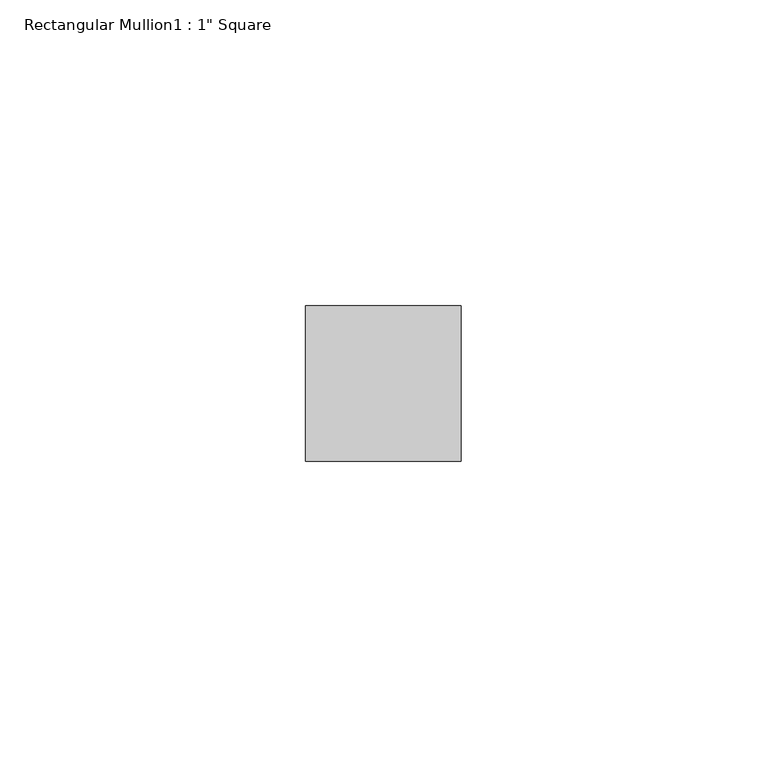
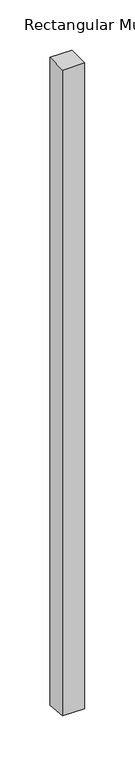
"""IFC4 building model written with IfcOpenShell, lengths in millimetres: member geometry."""

import ifcopenshell
import ifcopenshell.guid

model = None  # the IFC model being written
_history = None  # IfcOwnerHistory: only IFC2X3 demands one
_inside = {}  # id of a spatial element -> (the spatial element, [elements in it])
_under = {}  # id of a project, library or spatial element -> (it, [spatial elements below it])
_declared = {}  # id of a project -> (the project, [libraries it declares])
_typed = {}  # id of a type object -> (the type object, [elements of that type])
_made_of = {}  # id of a material, layer set ... -> (it, [elements and type objects made of it])


def new_model(schema):
    """Start an empty IFC model of exactly this schema.

    Asked for "IFC4X3", IfcOpenShell would pick the latest addendum, in which some entities
    have other attributes; the version numbers below select the first issue.
    IFC2X3 requires an IfcOwnerHistory on every rooted entity: one is made here for all.
    """
    global model, _history
    if schema == "IFC4X3":
        model = ifcopenshell.file(schema_version=(4, 3, 0, 0))
    else:
        model = ifcopenshell.file(schema=schema)
    _inside.clear()
    _under.clear()
    _declared.clear()
    _typed.clear()
    _made_of.clear()
    _history = None
    if model.schema == "IFC2X3":
        org = make("IfcOrganization", Name="unknown")
        user = make(
            "IfcPersonAndOrganization",
            ThePerson=make("IfcPerson", FamilyName="unknown"),
            TheOrganization=org,
        )
        app = make(
            "IfcApplication",
            ApplicationDeveloper=org,
            Version="unknown",
            ApplicationFullName="unknown",
            ApplicationIdentifier="unknown",
        )
        _history = make(
            "IfcOwnerHistory",
            OwningUser=user,
            OwningApplication=app,
            ChangeAction="ADDED",
            CreationDate=0,
        )
    return model


def make(cls, **values):
    """One entity of the class cls with the attributes given. An attribute that is None is left unset."""
    return model.create_entity(
        cls, **{name: value for name, value in values.items() if value is not None}
    )


def rooted(cls, **values):
    """An entity with a GlobalId (a new one), such as an element, a storey or a relation."""
    return make(cls, GlobalId=ifcopenshell.guid.new(), OwnerHistory=_history, **values)


def si_unit(unit_type, name, prefix=None):
    """IfcSIUnit, for example si_unit("LENGTHUNIT", "METRE", prefix="MILLI")."""
    return make("IfcSIUnit", UnitType=unit_type, Prefix=prefix, Name=name)


def assignment(units):
    """IfcUnitAssignment: the units of a project."""
    return None if units is None else make("IfcUnitAssignment", Units=units)


def point(xyz):
    """IfcCartesianPoint."""
    return None if xyz is None else make("IfcCartesianPoint", Coordinates=xyz)


def direction(xyz):
    """IfcDirection."""
    return None if xyz is None else make("IfcDirection", DirectionRatios=xyz)


def frame(location, z_axis=None, x_axis=None):
    """IfcAxis2Placement3D, a coordinate frame: its origin and axes. An axis left out is left unset."""
    return make(
        "IfcAxis2Placement3D",
        Location=point(location),
        Axis=direction(z_axis),
        RefDirection=direction(x_axis),
    )


def origin():
    """The frame at (0, 0, 0) with its axes left unset."""
    return frame((0.0, 0.0, 0.0))


def place(relative_to, where):
    """IfcLocalPlacement: puts the frame where relative to a parent placement (None: the world)."""
    return make(
        "IfcLocalPlacement", PlacementRelTo=relative_to, RelativePlacement=where
    )


def context(
    kind, dimensions, precision=None, world=None, true_north=None, identifier=None
):
    """IfcGeometricRepresentationContext, for example the 3D "Model" context."""
    return make(
        "IfcGeometricRepresentationContext",
        ContextIdentifier=identifier,
        ContextType=kind,
        CoordinateSpaceDimension=dimensions,
        Precision=precision,
        WorldCoordinateSystem=world,
        TrueNorth=true_north,
    )


def project(units=None, contexts=None):
    """IfcProject with its units and contexts."""
    return rooted(
        "IfcProject",
        Name="project",
        RepresentationContexts=contexts,
        UnitsInContext=assignment(units),
    )


def spatial(cls, under=None, at=None, **own):
    """A site, building, storey or space (cls), placed at a placement, below another one or the project."""
    s = rooted(cls, ObjectPlacement=at, **own)
    if under is not None:
        _under.setdefault(under.id(), (under, []))[1].append(s)
    return s


def polyline(points):
    """IfcPolyline through the points."""
    return make("IfcPolyline", Points=[point(p) for p in points])


def outline(outer, holes=None, kind="AREA"):
    """IfcArbitraryClosedProfileDef: a profile drawn as a closed curve; with holes, ...WithVoids."""
    if holes is None:
        return make("IfcArbitraryClosedProfileDef", ProfileType=kind, OuterCurve=outer)
    return make(
        "IfcArbitraryProfileDefWithVoids",
        ProfileType=kind,
        OuterCurve=outer,
        InnerCurves=holes,
    )


def extrude(swept, where, along, depth):
    """IfcExtrudedAreaSolid: the profile swept, set in the frame where, extruded along a direction by depth."""
    return make(
        "IfcExtrudedAreaSolid",
        SweptArea=swept,
        Position=where,
        ExtrudedDirection=direction(along),
        Depth=depth,
    )


def shape(context_of_items, identifier, shape_type, items):
    """IfcShapeRepresentation: the items that make up one representation, for example the "Body"."""
    return make(
        "IfcShapeRepresentation",
        ContextOfItems=context_of_items,
        RepresentationIdentifier=identifier,
        RepresentationType=shape_type,
        Items=items,
    )


def source(mapping_origin, context_of_items, identifier, shape_type, items):
    """IfcRepresentationMap: a shape defined once, which mapped items show again and again."""
    return make(
        "IfcRepresentationMap",
        MappingOrigin=mapping_origin,
        MappedRepresentation=shape(context_of_items, identifier, shape_type, items),
    )


def transform(
    local_origin,
    x_axis=None,
    y_axis=None,
    z_axis=None,
    scale=None,
    scale2=None,
    scale3=None,
    uniform=True,
):
    """IfcCartesianTransformationOperator3D, or its non-uniform kind. x_axis, y_axis, z_axis: its Axis1, 2, 3."""
    if uniform:
        return make(
            "IfcCartesianTransformationOperator3D",
            Axis1=direction(x_axis),
            Axis2=direction(y_axis),
            LocalOrigin=point(local_origin),
            Scale=scale,
            Axis3=direction(z_axis),
        )
    return make(
        "IfcCartesianTransformationOperator3DnonUniform",
        Axis1=direction(x_axis),
        Axis2=direction(y_axis),
        LocalOrigin=point(local_origin),
        Scale=scale,
        Axis3=direction(z_axis),
        Scale2=scale2,
        Scale3=scale3,
    )


def mapped(mapping_source, mapping_target):
    """IfcMappedItem: shows the shape of a source again, moved by a transform."""
    return make(
        "IfcMappedItem", MappingSource=mapping_source, MappingTarget=mapping_target
    )


def made_of(thing, what):
    """Note that an element or type object is made of a material, layer set ...; save() writes the relation."""
    if what is not None:
        _made_of.setdefault(what.id(), (what, []))[1].append(thing)
    return thing


def element(
    cls,
    number,
    at=None,
    inside=None,
    cuts=None,
    type_object=None,
    material=None,
    context=None,
    identifier="Body",
    shape_type=None,
    held_by="IfcProductDefinitionShape",
    body=None,
    shapes=None,
    **own,
):
    """One element of the class cls, such as IfcWall. Its Tag is "e" and its number.

    at: its placement. inside: the storey or other place that contains it. cuts: it is an
    opening in that element (IfcRelVoidsElement). A single representation is given by context,
    identifier, shape_type and body (its items); several are given by shapes. held_by: the class
    of the entity that holds the representations. save() writes the other relations.
    """
    e = rooted(cls, Tag="e%d" % number, ObjectPlacement=at, **own)
    if body is not None:
        shapes = [shape(context, identifier, shape_type, body)]
    if shapes is not None:
        e.Representation = make(held_by, Representations=shapes)
    if inside is not None:
        _inside.setdefault(inside.id(), (inside, []))[1].append(e)
    if cuts is not None:
        rooted(
            "IfcRelVoidsElement", RelatingBuildingElement=cuts, RelatedOpeningElement=e
        )
    if type_object is not None:
        _typed.setdefault(type_object.id(), (type_object, []))[1].append(e)
    return made_of(e, material)


def aggregate(whole, parts):
    """IfcRelAggregates: a whole, such as a stair, and the parts it consists of."""
    return rooted("IfcRelAggregates", RelatingObject=whole, RelatedObjects=parts)


def save(model, path):
    """Write the relations noted so far, then the file.

    IfcRelAggregates (storeys below a building ...), IfcRelContainedInSpatialStructure (elements
    in a storey), IfcRelDefinesByType, IfcRelAssociatesMaterial and IfcRelDeclares: one each for
    every whole, place, type object, material and project.
    """
    for whole, parts in _under.values():
        aggregate(whole, parts)
    for where, things in _inside.values():
        rooted(
            "IfcRelContainedInSpatialStructure",
            RelatedElements=things,
            RelatingStructure=where,
        )
    for kind, things in _typed.values():
        rooted("IfcRelDefinesByType", RelatedObjects=things, RelatingType=kind)
    for what, things in _made_of.values():
        rooted("IfcRelAssociatesMaterial", RelatedObjects=things, RelatingMaterial=what)
    for by, libraries in _declared.values():
        rooted("IfcRelDeclares", RelatingContext=by, RelatedDefinitions=libraries)
    model.write(path)


def member_b5ec39b9(model_context):
    return source(origin(), model_context, "Body", "SweptSolid", [
        extrude(outline(polyline([(-44.45, 0.0), (-19.05, 0.0), (-19.05, -788.2125975), (-44.45, -785.7930748), (-44.45, 0.0)])), frame((-25.4, 0.0, 0.0), z_axis=(1.0, 0.0, 0.0), x_axis=(0.0, 1.0, 0.0)), (0.0, 0.0, 1.0), 25.4),
    ])


if __name__ == "__main__":
    model = new_model("IFC4")
    model_context = context("Model", 3, world=origin())
    ifc_project = project(units=[si_unit("LENGTHUNIT", "METRE", prefix="MILLI")], contexts=[model_context])
    site = spatial("IfcSite", under=ifc_project)
    building = spatial("IfcBuilding", under=site)
    placement = place(None, origin())
    member_shape = member_b5ec39b9(model_context)
    element("IfcMember", 1, ObjectType="Rectangular Mullion1 : 1\" Square", at=placement, inside=building, context=model_context, shape_type="MappedRepresentation", body=[
        mapped(member_shape, transform((0.0, 0.0, 0.0), x_axis=(1.0, 0.0, 0.0), y_axis=(0.0, 1.0, 0.0), z_axis=(0.0, 0.0, 1.0))),
    ])
    save(model, "model.ifc")
